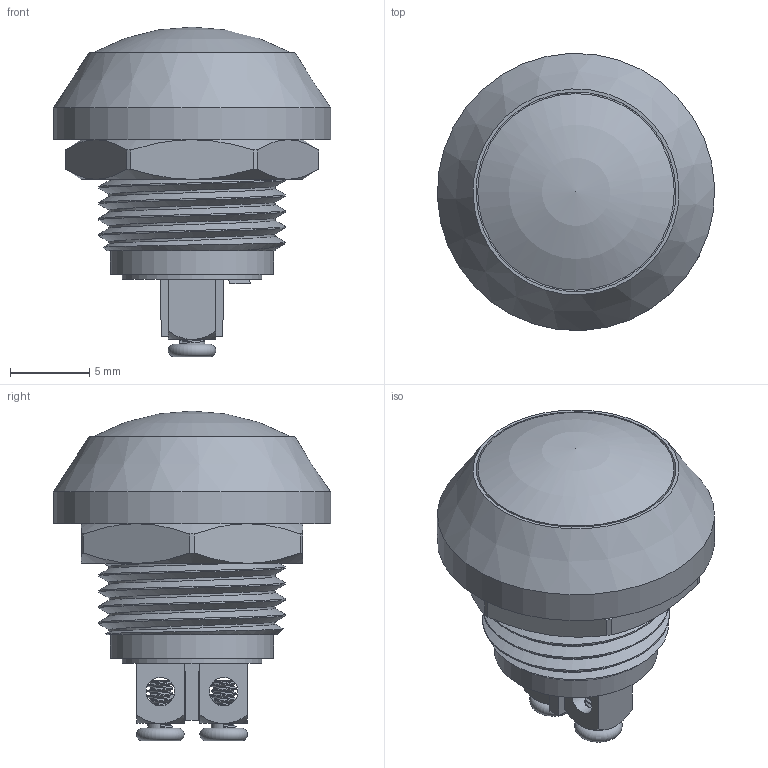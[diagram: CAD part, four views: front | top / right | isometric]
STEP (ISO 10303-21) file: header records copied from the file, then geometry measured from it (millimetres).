
FILE_DESCRIPTION(/* description */ (''),/* implementation_level */ '2;1');
FILE_NAME(/* name */ 'FM12E-SDS-10.stp',/* time_stamp */ '2020-07-29T09:32:14+08:00',/* author */ (''),/* organization */ (''),/* preprocessor_version */ 'ST-DEVELOPER v16.7',/* originating_system */ 'SIEMENS PLM Software NX 12.0',/* authorisation */ '');
FILE_SCHEMA (('AUTOMOTIVE_DESIGN { 1 0 10303 214 3 1 1 1 }'));
Length unit declared in the file: millimetre
Products named in the file (1): Admi4A54F2A67hdv
Bounding box: 17.48 x 17.48 x 20.8 mm (x, y, z)
Volume: 1503.1 mm3; surface area: 2719.4 mm2
Topology: 1 solids, 3 shells, 323 faces, 877 edges, 582 vertices
Faces by surface type: plane 179, cylinder 68, bspline 36, cone 33, extrusion 4, torus 2, sphere 1
Full cylindrical faces by diameter (mm): 0.7 x4, 1.5 x2, 1.6 x2, 1.7 x1, 1.8 x2, 2 x2, 5 x2, 8.8 x1, 9 x1, 9.4 x1, 10.3 x1, 11.3 x1, 12.4 x1, 12.6 x1, 13.2 x1, 16 x1, 17.5 x1
Entity records: 21445 total; most frequent: CARTESIAN_POINT 12942, ORIENTED_EDGE 1656, DIRECTION 1271, EDGE_CURVE 828, VERTEX_POINT 567, AXIS2_PLACEMENT_3D 449, EDGE_LOOP 413, VECTOR 373
